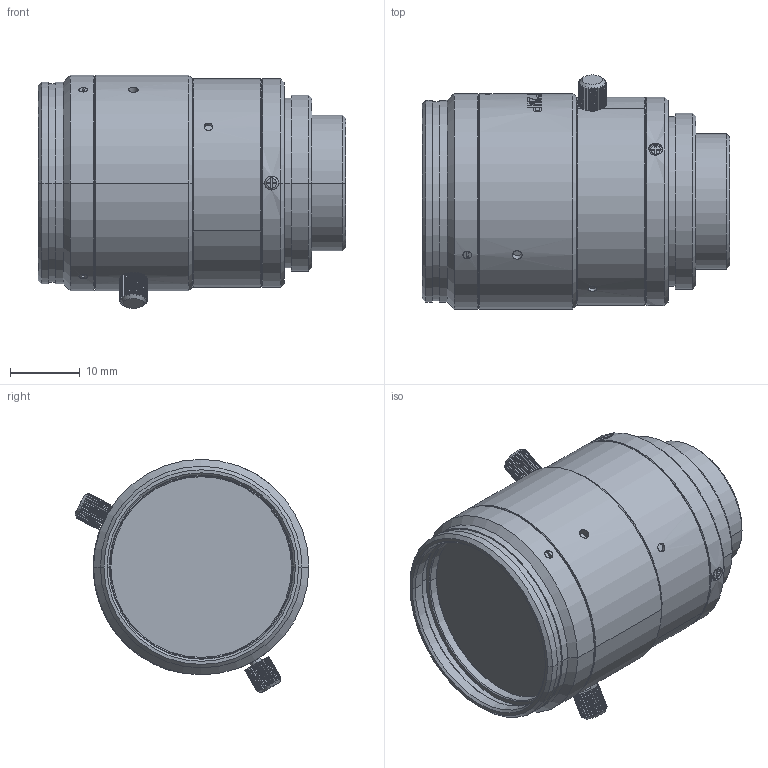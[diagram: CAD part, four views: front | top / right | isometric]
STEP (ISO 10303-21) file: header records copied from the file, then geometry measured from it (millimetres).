
FILE_DESCRIPTION((''),'2;1');
FILE_NAME('OPT-C1214-2M','2018-04-26T10:09:39',('dcsongs'),(''),'CREO PARAMETRIC BY PTC INC, 2017380','CREO PARAMETRIC BY PTC INC, 2017380','');
FILE_SCHEMA(('AUTOMOTIVE_DESIGN { 1 0 10303 214 1 1 1 1 }'));
Products named in the file (1): OPT-C1214-2M
Bounding box: 44.29 x 33.66 x 33.57 mm (x, y, z)
Volume: 26483.5 mm3; surface area: 6707.2 mm2
Topology: 1 solids, 1 shells, 1080 faces, 3063 edges, 2060 vertices
Faces by surface type: bspline 370, plane 363, cylinder 288, cone 50, torus 6, extrusion 3
Entity records: 49468 total; most frequent: CARTESIAN_POINT 19515, ORIENTED_EDGE 6126, DIRECTION 4184, EDGE_CURVE 3063, VERTEX_POINT 2060, AXIS2_PLACEMENT_3D 1434, VECTOR 1313, LINE 1310
